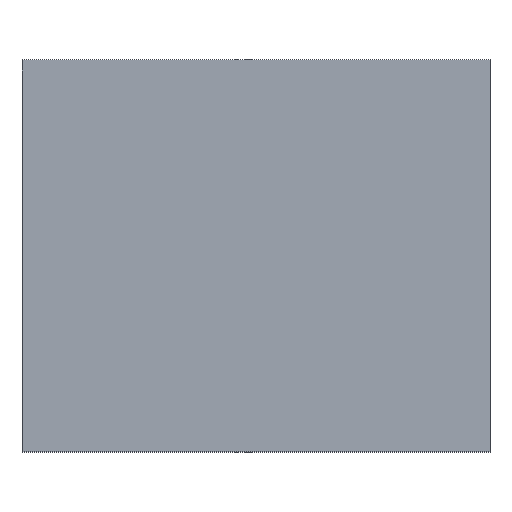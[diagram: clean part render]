
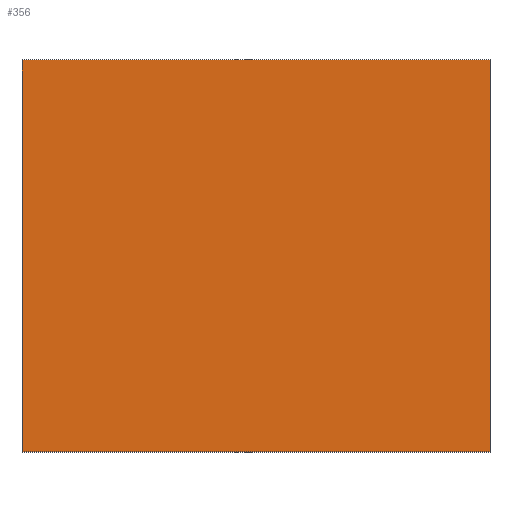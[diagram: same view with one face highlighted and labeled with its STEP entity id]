
A CAD part, top view. The second image highlights one B-rep face of the part: STEP entity #356.
In plain terms, the highlighted planar face has unit normal (0, 0, 1).
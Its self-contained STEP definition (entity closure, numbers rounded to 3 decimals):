
#42 = VERTEX_POINT('',#43);
#43 = CARTESIAN_POINT('',(-3.075,-2.575,1.12));
#50 = PLANE('',#51);
#51 = AXIS2_PLACEMENT_3D('',#52,#53,#54);
#52 = CARTESIAN_POINT('',(-3.075,-2.575,0.));
#53 = DIRECTION('',(1.,0.,0.));
#54 = DIRECTION('',(0.,0.,1.));
#62 = PLANE('',#63);
#63 = AXIS2_PLACEMENT_3D('',#64,#65,#66);
#64 = CARTESIAN_POINT('',(-3.075,-2.575,0.));
#65 = DIRECTION('',(0.,1.,0.));
#66 = DIRECTION('',(0.,0.,1.));
#103 = VERTEX_POINT('',#104);
#104 = CARTESIAN_POINT('',(-3.075,2.575,1.12));
#118 = PLANE('',#119);
#119 = AXIS2_PLACEMENT_3D('',#120,#121,#122);
#120 = CARTESIAN_POINT('',(-3.075,2.575,0.));
#121 = DIRECTION('',(0.,1.,0.));
#122 = DIRECTION('',(0.,0.,1.));
#130 = EDGE_CURVE('',#42,#103,#131,.T.);
#131 = SURFACE_CURVE('',#132,(#136,#143),.PCURVE_S1.);
#132 = LINE('',#133,#134);
#133 = CARTESIAN_POINT('',(-3.075,-2.575,1.12));
#134 = VECTOR('',#135,1.);
#135 = DIRECTION('',(0.,1.,0.));
#136 = PCURVE('',#50,#137);
#137 = DEFINITIONAL_REPRESENTATION('',(#138),#142);
#138 = LINE('',#139,#140);
#139 = CARTESIAN_POINT('',(1.12,0.));
#140 = VECTOR('',#141,1.);
#141 = DIRECTION('',(0.,-1.));
#142 = ( GEOMETRIC_REPRESENTATION_CONTEXT(2) 
PARAMETRIC_REPRESENTATION_CONTEXT() REPRESENTATION_CONTEXT('2D SPACE',''
  ) );
#143 = PCURVE('',#144,#149);
#144 = PLANE('',#145);
#145 = AXIS2_PLACEMENT_3D('',#146,#147,#148);
#146 = CARTESIAN_POINT('',(-3.075,-2.575,1.12));
#147 = DIRECTION('',(0.,0.,1.));
#148 = DIRECTION('',(1.,0.,0.));
#149 = DEFINITIONAL_REPRESENTATION('',(#150),#154);
#150 = LINE('',#151,#152);
#151 = CARTESIAN_POINT('',(0.,0.));
#152 = VECTOR('',#153,1.);
#153 = DIRECTION('',(0.,1.));
#154 = ( GEOMETRIC_REPRESENTATION_CONTEXT(2) 
PARAMETRIC_REPRESENTATION_CONTEXT() REPRESENTATION_CONTEXT('2D SPACE',''
  ) );
#162 = VERTEX_POINT('',#163);
#163 = CARTESIAN_POINT('',(3.075,-2.575,1.12));
#170 = PLANE('',#171);
#171 = AXIS2_PLACEMENT_3D('',#172,#173,#174);
#172 = CARTESIAN_POINT('',(3.075,-2.575,0.));
#173 = DIRECTION('',(1.,0.,0.));
#174 = DIRECTION('',(0.,0.,1.));
#213 = VERTEX_POINT('',#214);
#214 = CARTESIAN_POINT('',(3.075,2.575,1.12));
#235 = EDGE_CURVE('',#162,#213,#236,.T.);
#236 = SURFACE_CURVE('',#237,(#241,#248),.PCURVE_S1.);
#237 = LINE('',#238,#239);
#238 = CARTESIAN_POINT('',(3.075,-2.575,1.12));
#239 = VECTOR('',#240,1.);
#240 = DIRECTION('',(0.,1.,0.));
#241 = PCURVE('',#170,#242);
#242 = DEFINITIONAL_REPRESENTATION('',(#243),#247);
#243 = LINE('',#244,#245);
#244 = CARTESIAN_POINT('',(1.12,0.));
#245 = VECTOR('',#246,1.);
#246 = DIRECTION('',(0.,-1.));
#247 = ( GEOMETRIC_REPRESENTATION_CONTEXT(2) 
PARAMETRIC_REPRESENTATION_CONTEXT() REPRESENTATION_CONTEXT('2D SPACE',''
  ) );
#248 = PCURVE('',#144,#249);
#249 = DEFINITIONAL_REPRESENTATION('',(#250),#254);
#250 = LINE('',#251,#252);
#251 = CARTESIAN_POINT('',(6.15,0.));
#252 = VECTOR('',#253,1.);
#253 = DIRECTION('',(0.,1.));
#254 = ( GEOMETRIC_REPRESENTATION_CONTEXT(2) 
PARAMETRIC_REPRESENTATION_CONTEXT() REPRESENTATION_CONTEXT('2D SPACE',''
  ) );
#281 = EDGE_CURVE('',#42,#162,#282,.T.);
#282 = SURFACE_CURVE('',#283,(#287,#294),.PCURVE_S1.);
#283 = LINE('',#284,#285);
#284 = CARTESIAN_POINT('',(-3.075,-2.575,1.12));
#285 = VECTOR('',#286,1.);
#286 = DIRECTION('',(1.,0.,0.));
#287 = PCURVE('',#62,#288);
#288 = DEFINITIONAL_REPRESENTATION('',(#289),#293);
#289 = LINE('',#290,#291);
#290 = CARTESIAN_POINT('',(1.12,0.));
#291 = VECTOR('',#292,1.);
#292 = DIRECTION('',(0.,1.));
#293 = ( GEOMETRIC_REPRESENTATION_CONTEXT(2) 
PARAMETRIC_REPRESENTATION_CONTEXT() REPRESENTATION_CONTEXT('2D SPACE',''
  ) );
#294 = PCURVE('',#144,#295);
#295 = DEFINITIONAL_REPRESENTATION('',(#296),#300);
#296 = LINE('',#297,#298);
#297 = CARTESIAN_POINT('',(0.,0.));
#298 = VECTOR('',#299,1.);
#299 = DIRECTION('',(1.,0.));
#300 = ( GEOMETRIC_REPRESENTATION_CONTEXT(2) 
PARAMETRIC_REPRESENTATION_CONTEXT() REPRESENTATION_CONTEXT('2D SPACE',''
  ) );
#328 = EDGE_CURVE('',#103,#213,#329,.T.);
#329 = SURFACE_CURVE('',#330,(#334,#341),.PCURVE_S1.);
#330 = LINE('',#331,#332);
#331 = CARTESIAN_POINT('',(-3.075,2.575,1.12));
#332 = VECTOR('',#333,1.);
#333 = DIRECTION('',(1.,0.,0.));
#334 = PCURVE('',#118,#335);
#335 = DEFINITIONAL_REPRESENTATION('',(#336),#340);
#336 = LINE('',#337,#338);
#337 = CARTESIAN_POINT('',(1.12,0.));
#338 = VECTOR('',#339,1.);
#339 = DIRECTION('',(0.,1.));
#340 = ( GEOMETRIC_REPRESENTATION_CONTEXT(2) 
PARAMETRIC_REPRESENTATION_CONTEXT() REPRESENTATION_CONTEXT('2D SPACE',''
  ) );
#341 = PCURVE('',#144,#342);
#342 = DEFINITIONAL_REPRESENTATION('',(#343),#347);
#343 = LINE('',#344,#345);
#344 = CARTESIAN_POINT('',(0.,5.15));
#345 = VECTOR('',#346,1.);
#346 = DIRECTION('',(1.,0.));
#347 = ( GEOMETRIC_REPRESENTATION_CONTEXT(2) 
PARAMETRIC_REPRESENTATION_CONTEXT() REPRESENTATION_CONTEXT('2D SPACE',''
  ) );
#356 = ADVANCED_FACE('',(#357),#144,.T.);
#357 = FACE_BOUND('',#358,.T.);
#358 = EDGE_LOOP('',(#359,#360,#361,#362));
#359 = ORIENTED_EDGE('',*,*,#130,.F.);
#360 = ORIENTED_EDGE('',*,*,#281,.T.);
#361 = ORIENTED_EDGE('',*,*,#235,.T.);
#362 = ORIENTED_EDGE('',*,*,#328,.F.);
